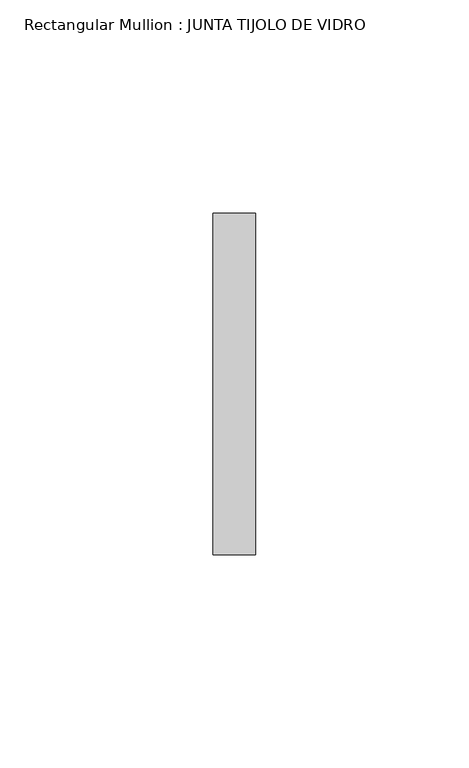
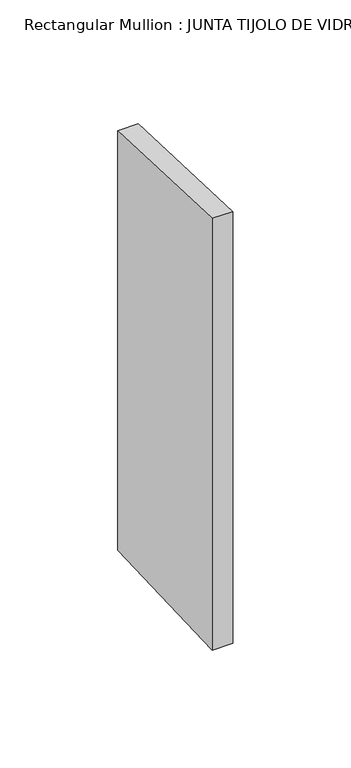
"""IFC4 building model written with IfcOpenShell, lengths in millimetres: member geometry, Rectangular Mullion : JUNTA TIJOLO DE VIDRO."""

from ifc_helpers import new_model, si_unit, frame, origin, place, context, project, spatial, polyline, outline, extrude, source, transform, mapped, element, save


def rectangular_mullion_junta_tijolo_de_vidro_b72cfb84(model_context):
    return source(origin(), model_context, "Body", "SweptSolid", [
        extrude(outline(polyline([(-40.0, 1.5506987), (40.0, -1.5506987), (40.0, -218.7738047), (-40.0, -221.8399565), (-40.0, 1.5506987)])), frame((-10.0, 0.0, 0.0), z_axis=(1.0, 0.0, 0.0), x_axis=(0.0, 1.0, 0.0)), (0.0, 0.0, 1.0), 10.0),
    ])


if __name__ == "__main__":
    model = new_model("IFC4")
    model_context = context("Model", 3, world=origin())
    ifc_project = project(units=[si_unit("LENGTHUNIT", "METRE", prefix="MILLI")], contexts=[model_context])
    site = spatial("IfcSite", under=ifc_project)
    building = spatial("IfcBuilding", under=site)
    placement = place(None, origin())
    rectangular_mullion_junta_tijolo_de_vidro_shape = rectangular_mullion_junta_tijolo_de_vidro_b72cfb84(model_context)
    element("IfcMember", 1, ObjectType="Rectangular Mullion : JUNTA TIJOLO DE VIDRO", at=placement, inside=building, context=model_context, shape_type="MappedRepresentation", body=[
        mapped(rectangular_mullion_junta_tijolo_de_vidro_shape, transform((0.0, 0.0, 0.0), x_axis=(1.0, 0.0, 0.0), y_axis=(0.0, 1.0, 0.0), z_axis=(0.0, 0.0, 1.0))),
    ])
    save(model, "model.ifc")
